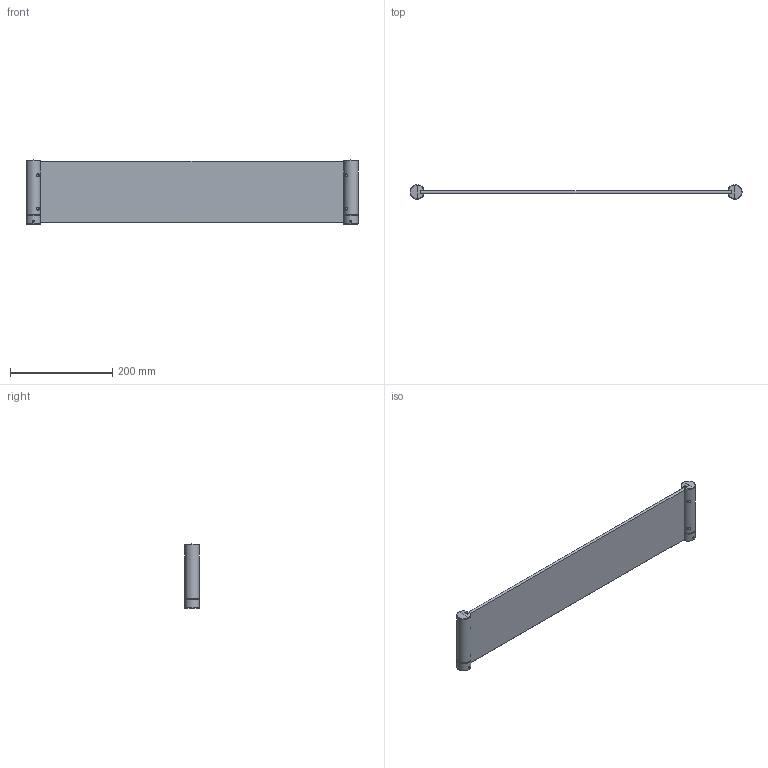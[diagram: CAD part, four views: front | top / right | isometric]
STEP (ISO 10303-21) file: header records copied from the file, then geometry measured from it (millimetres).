
FILE_DESCRIPTION((''),'2;1');
FILE_NAME('48311--_ASM','2026-10-13T14:40:43',('simi1'),(''),'CREO PARAMETRIC BY PTC INC, 2022244','CREO PARAMETRIC BY PTC INC, 2022244','');
FILE_SCHEMA(('CONFIG_CONTROL_DESIGN'));
Length unit declared in the file: millimetre
Products named in the file (4): 7985800; 79856--; 79854--; 48311--_ASM
Assembly tree (3 placements, depth 2):
  48311--_ASM
    7985800
    79856--
    79854--
Bounding box: 648 x 27.99 x 125 mm (x, y, z)
Volume: 572053.9 mm3; surface area: 184045.3 mm2
Topology: 3 solids, 9 shells, 103 faces, 264 edges, 164 vertices
Faces by surface type: cylinder 48, plane 21, cone 18, torus 6, bspline 6, sphere 4
Entity records: 3915 total; most frequent: CARTESIAN_POINT 1357, DIRECTION 526, ORIENTED_EDGE 488, EDGE_CURVE 256, AXIS2_PLACEMENT_3D 216, VERTEX_POINT 164, EDGE_LOOP 120, CIRCLE 108
